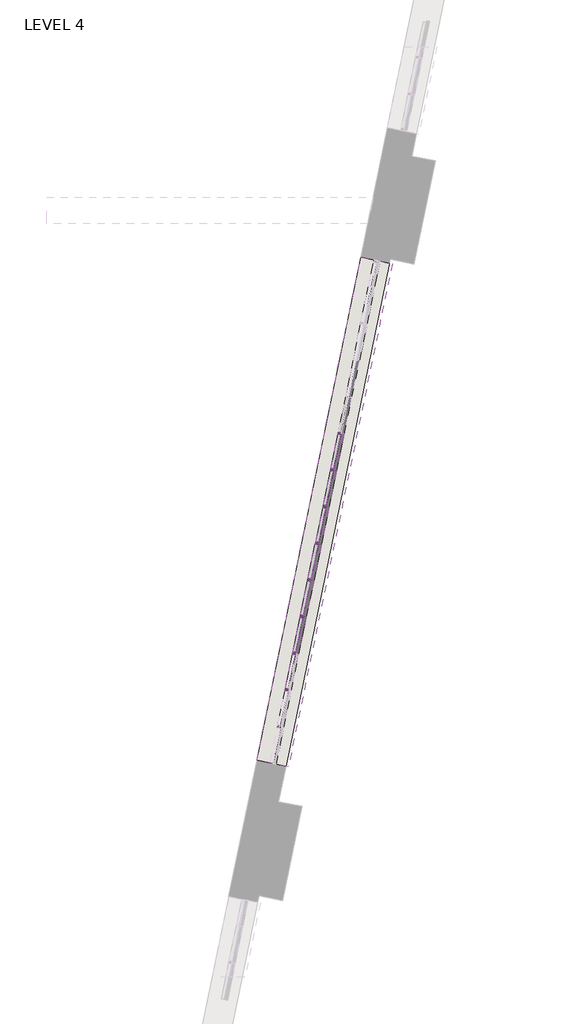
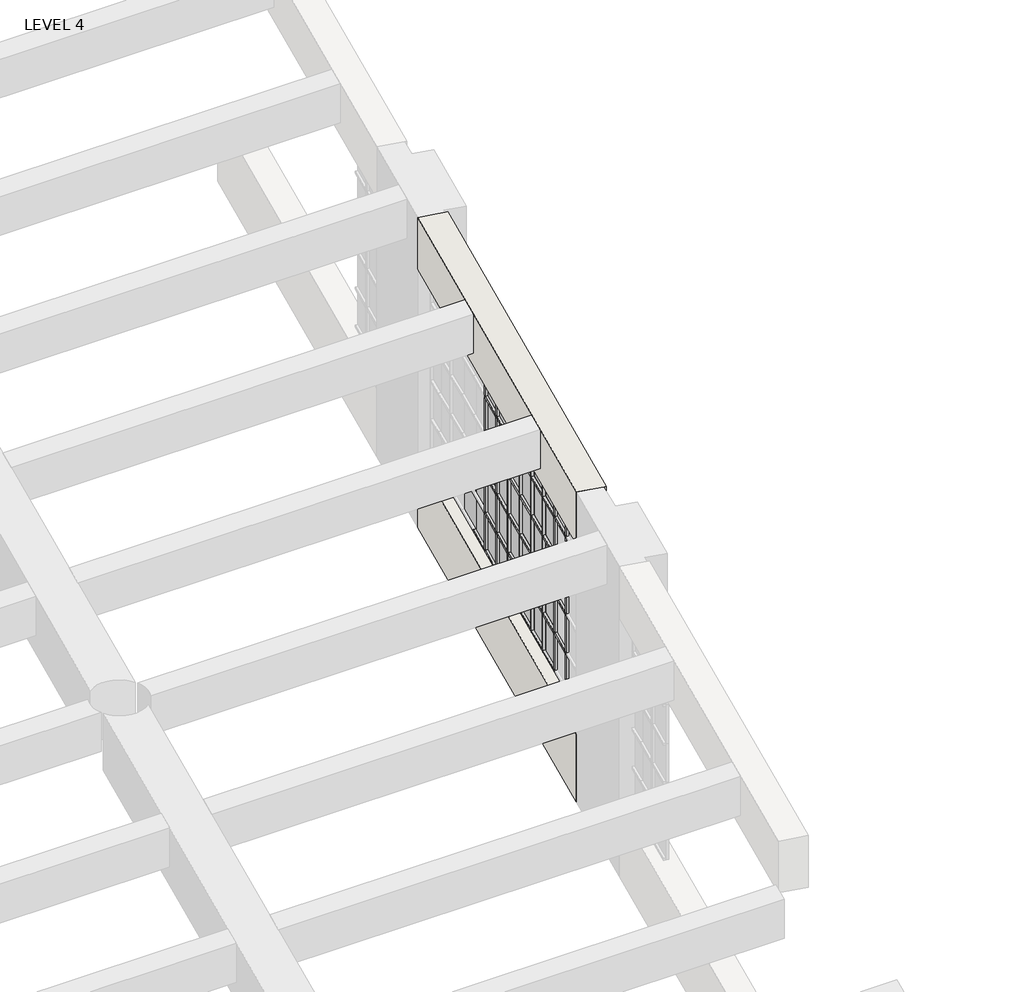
# One storey, part 20 of 26: 84 members, 34 plates, 2 walls.
"""IFC4 building model written with IfcOpenShell, lengths in millimetres."""

from ifc_helpers import new_model, si_unit, frame, origin, origin_with_axes, place, context, project, spatial, polyline, outline, extrude, transform, mapped, element, save
from components import member_d9fec558, member_3d4b608b, member_3c10d71f, member_653bb31e, member_0f6da5c5, member_68d7b224, system_panel_glazed_ab35d819, system_panel_glazed_418eb6cd

model = new_model("IFC4")

# Units and contexts
model_context = context("Model", 3, world=origin())
ifc_project = project(units=[si_unit("LENGTHUNIT", "METRE", prefix="MILLI")], contexts=[model_context])

# Site, building, storey
site = spatial("IfcSite", under=ifc_project)
building = spatial("IfcBuilding", under=site)
storey = spatial("IfcBuildingStorey", under=building, Name="LEVEL 4", Elevation=0.0)

# Members
placement = place(None, origin())
member_shape = member_d9fec558(model_context)
element("IfcMember", 1, ObjectType="Circular Mullion : 1 1/4\" Square", at=placement, inside=storey, context=model_context, shape_type="MappedRepresentation", body=[
    mapped(member_shape, transform((20965.7403729, 103192.5272688, 2628.9), x_axis=(0.20222128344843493, 0.979339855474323, 0.0), y_axis=(0.979339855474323, -0.20222128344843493, 0.0), z_axis=(0.0, 0.0, -1.0))),
])
element("IfcMember", 2, ObjectType="Circular Mullion : 1 1/4\" Square", at=placement, inside=storey, context=model_context, shape_type="MappedRepresentation", body=[
    mapped(member_shape, transform((20893.8304845, 102844.2740162, 2628.9), x_axis=(0.20222128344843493, 0.979339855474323, 0.0), y_axis=(0.979339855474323, -0.20222128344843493, 0.0), z_axis=(0.0, 0.0, -1.0))),
])
element("IfcMember", 3, ObjectType="Circular Mullion : 1 1/4\" Square", at=placement, inside=storey, context=model_context, shape_type="MappedRepresentation", body=[
    mapped(member_shape, transform((20821.9205961, 102496.0207636, 2628.9), x_axis=(0.20222128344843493, 0.979339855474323, 0.0), y_axis=(0.979339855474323, -0.20222128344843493, 0.0), z_axis=(0.0, 0.0, -1.0))),
])
element("IfcMember", 4, ObjectType="Circular Mullion : 1 1/4\" Square", at=placement, inside=storey, context=model_context, shape_type="MappedRepresentation", body=[
    mapped(member_shape, transform((20750.0107078, 102147.767511, 2628.9), x_axis=(0.20222128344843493, 0.979339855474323, 0.0), y_axis=(0.979339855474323, -0.20222128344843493, 0.0), z_axis=(0.0, 0.0, -1.0))),
])
element("IfcMember", 5, ObjectType="Circular Mullion : 1 1/4\" Square", at=placement, inside=storey, context=model_context, shape_type="MappedRepresentation", body=[
    mapped(member_shape, transform((20678.1008194, 101799.5142583, 2628.9), x_axis=(0.20222128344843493, 0.979339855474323, 0.0), y_axis=(0.979339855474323, -0.20222128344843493, 0.0), z_axis=(0.0, 0.0, -1.0))),
])
element("IfcMember", 6, ObjectType="Circular Mullion : 1 1/4\" Square", at=placement, inside=storey, context=model_context, shape_type="MappedRepresentation", body=[
    mapped(member_shape, transform((20606.190931, 101451.2610057, 2628.9), x_axis=(0.20222128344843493, 0.979339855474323, 0.0), y_axis=(0.979339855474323, -0.20222128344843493, 0.0), z_axis=(0.0, 0.0, -1.0))),
])
element("IfcMember", 7, ObjectType="Circular Mullion : 1 1/4\" Square", at=placement, inside=storey, context=model_context, shape_type="MappedRepresentation", body=[
    mapped(member_shape, transform((20534.2810426, 101103.0077531, 2628.9), x_axis=(0.20222128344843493, 0.979339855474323, 0.0), y_axis=(0.979339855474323, -0.20222128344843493, 0.0), z_axis=(0.0, 0.0, -1.0))),
])
element("IfcMember", 8, ObjectType="Circular Mullion : 1 1/4\" Square", at=placement, inside=storey, context=model_context, shape_type="MappedRepresentation", body=[
    mapped(member_shape, transform((20462.3711542, 100754.7545005, 2628.9), x_axis=(0.20222128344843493, 0.979339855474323, 0.0), y_axis=(0.979339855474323, -0.20222128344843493, 0.0), z_axis=(0.0, 0.0, -1.0))),
])
element("IfcMember", 9, ObjectType="Circular Mullion : 1 1/4\" Square", at=placement, inside=storey, context=model_context, shape_type="MappedRepresentation", body=[
    mapped(member_shape, transform((20390.4612658, 100406.5012479, 2628.9), x_axis=(0.20222128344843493, 0.979339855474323, 0.0), y_axis=(0.979339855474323, -0.20222128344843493, 0.0), z_axis=(0.0, 0.0, -1.0))),
])
member_2_shape = member_3d4b608b(model_context)
element("IfcMember", 10, ObjectType="Circular Mullion : 1 1/4\" Square", at=placement, inside=storey, context=model_context, shape_type="MappedRepresentation", body=[
    mapped(member_2_shape, transform((20965.7403729, 103192.5272688, 2171.7), x_axis=(0.20222128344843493, 0.979339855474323, 0.0), y_axis=(0.979339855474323, -0.20222128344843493, 0.0), z_axis=(0.0, 0.0, -1.0))),
])
element("IfcMember", 11, ObjectType="Circular Mullion : 1 1/4\" Square", at=placement, inside=storey, context=model_context, shape_type="MappedRepresentation", body=[
    mapped(member_2_shape, transform((20965.7403729, 103192.5272688, 1714.5), x_axis=(0.20222128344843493, 0.979339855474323, 0.0), y_axis=(0.979339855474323, -0.20222128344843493, 0.0), z_axis=(0.0, 0.0, -1.0))),
])
element("IfcMember", 12, ObjectType="Circular Mullion : 1 1/4\" Square", at=placement, inside=storey, context=model_context, shape_type="MappedRepresentation", body=[
    mapped(member_2_shape, transform((20965.7403729, 103192.5272688, 1257.3), x_axis=(0.20222128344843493, 0.979339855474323, 0.0), y_axis=(0.979339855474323, -0.20222128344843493, 0.0), z_axis=(0.0, 0.0, -1.0))),
])
element("IfcMember", 13, ObjectType="Circular Mullion : 1 1/4\" Square", at=placement, inside=storey, context=model_context, shape_type="MappedRepresentation", body=[
    mapped(member_2_shape, transform((20893.8304845, 102844.2740162, 2171.7), x_axis=(0.20222128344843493, 0.979339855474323, 0.0), y_axis=(0.979339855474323, -0.20222128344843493, 0.0), z_axis=(0.0, 0.0, -1.0))),
])
element("IfcMember", 14, ObjectType="Circular Mullion : 1 1/4\" Square", at=placement, inside=storey, context=model_context, shape_type="MappedRepresentation", body=[
    mapped(member_2_shape, transform((20893.8304845, 102844.2740162, 1714.5), x_axis=(0.20222128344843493, 0.979339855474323, 0.0), y_axis=(0.979339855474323, -0.20222128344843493, 0.0), z_axis=(0.0, 0.0, -1.0))),
])
element("IfcMember", 15, ObjectType="Circular Mullion : 1 1/4\" Square", at=placement, inside=storey, context=model_context, shape_type="MappedRepresentation", body=[
    mapped(member_2_shape, transform((20893.8304845, 102844.2740162, 1257.3), x_axis=(0.20222128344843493, 0.979339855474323, 0.0), y_axis=(0.979339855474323, -0.20222128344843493, 0.0), z_axis=(0.0, 0.0, -1.0))),
])
element("IfcMember", 16, ObjectType="Circular Mullion : 1 1/4\" Square", at=placement, inside=storey, context=model_context, shape_type="MappedRepresentation", body=[
    mapped(member_2_shape, transform((20821.9205961, 102496.0207636, 2171.7), x_axis=(0.20222128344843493, 0.979339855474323, 0.0), y_axis=(0.979339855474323, -0.20222128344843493, 0.0), z_axis=(0.0, 0.0, -1.0))),
])
element("IfcMember", 17, ObjectType="Circular Mullion : 1 1/4\" Square", at=placement, inside=storey, context=model_context, shape_type="MappedRepresentation", body=[
    mapped(member_2_shape, transform((20821.9205961, 102496.0207636, 1714.5), x_axis=(0.20222128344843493, 0.979339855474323, 0.0), y_axis=(0.979339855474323, -0.20222128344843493, 0.0), z_axis=(0.0, 0.0, -1.0))),
])
element("IfcMember", 18, ObjectType="Circular Mullion : 1 1/4\" Square", at=placement, inside=storey, context=model_context, shape_type="MappedRepresentation", body=[
    mapped(member_2_shape, transform((20821.9205961, 102496.0207636, 1257.3), x_axis=(0.20222128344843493, 0.979339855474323, 0.0), y_axis=(0.979339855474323, -0.20222128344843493, 0.0), z_axis=(0.0, 0.0, -1.0))),
])
element("IfcMember", 19, ObjectType="Circular Mullion : 1 1/4\" Square", at=placement, inside=storey, context=model_context, shape_type="MappedRepresentation", body=[
    mapped(member_2_shape, transform((20750.0107078, 102147.767511, 2171.7), x_axis=(0.20222128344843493, 0.979339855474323, 0.0), y_axis=(0.979339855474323, -0.20222128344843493, 0.0), z_axis=(0.0, 0.0, -1.0))),
])
element("IfcMember", 20, ObjectType="Circular Mullion : 1 1/4\" Square", at=placement, inside=storey, context=model_context, shape_type="MappedRepresentation", body=[
    mapped(member_2_shape, transform((20750.0107078, 102147.767511, 1714.5), x_axis=(0.20222128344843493, 0.979339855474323, 0.0), y_axis=(0.979339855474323, -0.20222128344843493, 0.0), z_axis=(0.0, 0.0, -1.0))),
])
element("IfcMember", 21, ObjectType="Circular Mullion : 1 1/4\" Square", at=placement, inside=storey, context=model_context, shape_type="MappedRepresentation", body=[
    mapped(member_2_shape, transform((20750.0107078, 102147.767511, 1257.3), x_axis=(0.20222128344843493, 0.979339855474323, 0.0), y_axis=(0.979339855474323, -0.20222128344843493, 0.0), z_axis=(0.0, 0.0, -1.0))),
])
element("IfcMember", 22, ObjectType="Circular Mullion : 1 1/4\" Square", at=placement, inside=storey, context=model_context, shape_type="MappedRepresentation", body=[
    mapped(member_2_shape, transform((20678.1008194, 101799.5142583, 2171.7), x_axis=(0.20222128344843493, 0.979339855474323, 0.0), y_axis=(0.979339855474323, -0.20222128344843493, 0.0), z_axis=(0.0, 0.0, -1.0))),
])
element("IfcMember", 23, ObjectType="Circular Mullion : 1 1/4\" Square", at=placement, inside=storey, context=model_context, shape_type="MappedRepresentation", body=[
    mapped(member_2_shape, transform((20678.1008194, 101799.5142583, 1714.5), x_axis=(0.20222128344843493, 0.979339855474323, 0.0), y_axis=(0.979339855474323, -0.20222128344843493, 0.0), z_axis=(0.0, 0.0, -1.0))),
])
element("IfcMember", 24, ObjectType="Circular Mullion : 1 1/4\" Square", at=placement, inside=storey, context=model_context, shape_type="MappedRepresentation", body=[
    mapped(member_2_shape, transform((20678.1008194, 101799.5142583, 1257.3), x_axis=(0.20222128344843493, 0.979339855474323, 0.0), y_axis=(0.979339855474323, -0.20222128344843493, 0.0), z_axis=(0.0, 0.0, -1.0))),
])
element("IfcMember", 25, ObjectType="Circular Mullion : 1 1/4\" Square", at=placement, inside=storey, context=model_context, shape_type="MappedRepresentation", body=[
    mapped(member_2_shape, transform((20606.190931, 101451.2610057, 2171.7), x_axis=(0.20222128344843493, 0.979339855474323, 0.0), y_axis=(0.979339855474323, -0.20222128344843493, 0.0), z_axis=(0.0, 0.0, -1.0))),
])
element("IfcMember", 26, ObjectType="Circular Mullion : 1 1/4\" Square", at=placement, inside=storey, context=model_context, shape_type="MappedRepresentation", body=[
    mapped(member_2_shape, transform((20606.190931, 101451.2610057, 1714.5), x_axis=(0.20222128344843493, 0.979339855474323, 0.0), y_axis=(0.979339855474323, -0.20222128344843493, 0.0), z_axis=(0.0, 0.0, -1.0))),
])
element("IfcMember", 27, ObjectType="Circular Mullion : 1 1/4\" Square", at=placement, inside=storey, context=model_context, shape_type="MappedRepresentation", body=[
    mapped(member_2_shape, transform((20606.190931, 101451.2610057, 1257.3), x_axis=(0.20222128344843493, 0.979339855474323, 0.0), y_axis=(0.979339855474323, -0.20222128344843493, 0.0), z_axis=(0.0, 0.0, -1.0))),
])
element("IfcMember", 28, ObjectType="Circular Mullion : 1 1/4\" Square", at=placement, inside=storey, context=model_context, shape_type="MappedRepresentation", body=[
    mapped(member_2_shape, transform((20534.2810426, 101103.0077531, 2171.7), x_axis=(0.20222128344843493, 0.979339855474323, 0.0), y_axis=(0.979339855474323, -0.20222128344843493, 0.0), z_axis=(0.0, 0.0, -1.0))),
])
element("IfcMember", 29, ObjectType="Circular Mullion : 1 1/4\" Square", at=placement, inside=storey, context=model_context, shape_type="MappedRepresentation", body=[
    mapped(member_2_shape, transform((20534.2810426, 101103.0077531, 1714.5), x_axis=(0.20222128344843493, 0.979339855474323, 0.0), y_axis=(0.979339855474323, -0.20222128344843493, 0.0), z_axis=(0.0, 0.0, -1.0))),
])
element("IfcMember", 30, ObjectType="Circular Mullion : 1 1/4\" Square", at=placement, inside=storey, context=model_context, shape_type="MappedRepresentation", body=[
    mapped(member_2_shape, transform((20534.2810426, 101103.0077531, 1257.3), x_axis=(0.20222128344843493, 0.979339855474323, 0.0), y_axis=(0.979339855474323, -0.20222128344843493, 0.0), z_axis=(0.0, 0.0, -1.0))),
])
element("IfcMember", 31, ObjectType="Circular Mullion : 1 1/4\" Square", at=placement, inside=storey, context=model_context, shape_type="MappedRepresentation", body=[
    mapped(member_2_shape, transform((20462.3711542, 100754.7545005, 2171.7), x_axis=(0.20222128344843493, 0.979339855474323, 0.0), y_axis=(0.979339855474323, -0.20222128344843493, 0.0), z_axis=(0.0, 0.0, -1.0))),
])
element("IfcMember", 32, ObjectType="Circular Mullion : 1 1/4\" Square", at=placement, inside=storey, context=model_context, shape_type="MappedRepresentation", body=[
    mapped(member_2_shape, transform((20462.3711542, 100754.7545005, 1714.5), x_axis=(0.20222128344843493, 0.979339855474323, 0.0), y_axis=(0.979339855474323, -0.20222128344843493, 0.0), z_axis=(0.0, 0.0, -1.0))),
])
element("IfcMember", 33, ObjectType="Circular Mullion : 1 1/4\" Square", at=placement, inside=storey, context=model_context, shape_type="MappedRepresentation", body=[
    mapped(member_2_shape, transform((20462.3711542, 100754.7545005, 1257.3), x_axis=(0.20222128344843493, 0.979339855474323, 0.0), y_axis=(0.979339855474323, -0.20222128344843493, 0.0), z_axis=(0.0, 0.0, -1.0))),
])
element("IfcMember", 34, ObjectType="Circular Mullion : 1 1/4\" Square", at=placement, inside=storey, context=model_context, shape_type="MappedRepresentation", body=[
    mapped(member_2_shape, transform((20965.7403729, 103192.5272688, 800.1), x_axis=(0.20222128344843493, 0.979339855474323, 0.0), y_axis=(0.979339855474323, -0.20222128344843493, 0.0), z_axis=(0.0, 0.0, -1.0))),
])
element("IfcMember", 35, ObjectType="Circular Mullion : 1 1/4\" Square", at=placement, inside=storey, context=model_context, shape_type="MappedRepresentation", body=[
    mapped(member_2_shape, transform((20893.8304845, 102844.2740162, 800.1), x_axis=(0.20222128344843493, 0.979339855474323, 0.0), y_axis=(0.979339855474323, -0.20222128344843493, 0.0), z_axis=(0.0, 0.0, -1.0))),
])
element("IfcMember", 36, ObjectType="Circular Mullion : 1 1/4\" Square", at=placement, inside=storey, context=model_context, shape_type="MappedRepresentation", body=[
    mapped(member_2_shape, transform((20821.9205961, 102496.0207636, 800.1), x_axis=(0.20222128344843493, 0.979339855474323, 0.0), y_axis=(0.979339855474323, -0.20222128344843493, 0.0), z_axis=(0.0, 0.0, -1.0))),
])
element("IfcMember", 37, ObjectType="Circular Mullion : 1 1/4\" Square", at=placement, inside=storey, context=model_context, shape_type="MappedRepresentation", body=[
    mapped(member_2_shape, transform((20750.0107078, 102147.767511, 800.1), x_axis=(0.20222128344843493, 0.979339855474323, 0.0), y_axis=(0.979339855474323, -0.20222128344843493, 0.0), z_axis=(0.0, 0.0, -1.0))),
])
element("IfcMember", 38, ObjectType="Circular Mullion : 1 1/4\" Square", at=placement, inside=storey, context=model_context, shape_type="MappedRepresentation", body=[
    mapped(member_2_shape, transform((20678.1008194, 101799.5142583, 800.1), x_axis=(0.20222128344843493, 0.979339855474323, 0.0), y_axis=(0.979339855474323, -0.20222128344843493, 0.0), z_axis=(0.0, 0.0, -1.0))),
])
element("IfcMember", 39, ObjectType="Circular Mullion : 1 1/4\" Square", at=placement, inside=storey, context=model_context, shape_type="MappedRepresentation", body=[
    mapped(member_2_shape, transform((20606.190931, 101451.2610057, 800.1), x_axis=(0.20222128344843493, 0.979339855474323, 0.0), y_axis=(0.979339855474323, -0.20222128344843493, 0.0), z_axis=(0.0, 0.0, -1.0))),
])
element("IfcMember", 40, ObjectType="Circular Mullion : 1 1/4\" Square", at=placement, inside=storey, context=model_context, shape_type="MappedRepresentation", body=[
    mapped(member_2_shape, transform((20534.2810426, 101103.0077531, 800.1), x_axis=(0.20222128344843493, 0.979339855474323, 0.0), y_axis=(0.979339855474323, -0.20222128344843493, 0.0), z_axis=(0.0, 0.0, -1.0))),
])
element("IfcMember", 41, ObjectType="Circular Mullion : 1 1/4\" Square", at=placement, inside=storey, context=model_context, shape_type="MappedRepresentation", body=[
    mapped(member_2_shape, transform((20462.3711542, 100754.7545005, 800.1), x_axis=(0.20222128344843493, 0.979339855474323, 0.0), y_axis=(0.979339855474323, -0.20222128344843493, 0.0), z_axis=(0.0, 0.0, -1.0))),
])
member_3_shape = member_3c10d71f(model_context)
element("IfcMember", 42, ObjectType="Circular Mullion : 1 1/4\" Square", at=placement, inside=storey, context=model_context, shape_type="MappedRepresentation", body=[
    mapped(member_3_shape, transform((20531.7128323, 101090.570137, 3060.7), x_axis=(0.0, 0.0, 1.0), y_axis=(0.9793398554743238, -0.20222128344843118, 0.0), z_axis=(0.20222128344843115, 0.9793398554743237, 0.0))),
])
element("IfcMember", 43, ObjectType="Circular Mullion : 1 1/4\" Square", at=placement, inside=storey, context=model_context, shape_type="MappedRepresentation", body=[
    mapped(member_3_shape, transform((20603.6227207, 101438.8233896, 3060.7), x_axis=(0.0, 0.0, 1.0), y_axis=(0.9793398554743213, -0.20222128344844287, 0.0), z_axis=(0.20222128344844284, 0.9793398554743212, 0.0))),
])
element("IfcMember", 44, ObjectType="Circular Mullion : 1 1/4\" Square", at=placement, inside=storey, context=model_context, shape_type="MappedRepresentation", body=[
    mapped(member_3_shape, transform((20675.5326091, 101787.0766422, 3060.7), x_axis=(0.0, 0.0, 1.0), y_axis=(0.9793398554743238, -0.20222128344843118, 0.0), z_axis=(0.20222128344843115, 0.9793398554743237, 0.0))),
])
element("IfcMember", 45, ObjectType="Circular Mullion : 1 1/4\" Square", at=placement, inside=storey, context=model_context, shape_type="MappedRepresentation", body=[
    mapped(member_3_shape, transform((20747.4424975, 102135.3298948, 3060.7), x_axis=(0.0, 0.0, 1.0), y_axis=(0.9793398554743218, -0.20222128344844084, 0.0), z_axis=(0.20222128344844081, 0.9793398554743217, 0.0))),
])
element("IfcMember", 46, ObjectType="Circular Mullion : 1 1/4\" Square", at=placement, inside=storey, context=model_context, shape_type="MappedRepresentation", body=[
    mapped(member_3_shape, transform((20819.3523858, 102483.5831474, 3060.7), x_axis=(0.0, 0.0, 1.0), y_axis=(0.9793398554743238, -0.20222128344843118, 0.0), z_axis=(0.20222128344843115, 0.9793398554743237, 0.0))),
])
element("IfcMember", 47, ObjectType="Circular Mullion : 1 1/4\" Square", at=placement, inside=storey, context=model_context, shape_type="MappedRepresentation", body=[
    mapped(member_3_shape, transform((20891.2622742, 102831.8364, 3060.7), x_axis=(0.0, 0.0, 1.0), y_axis=(0.9793398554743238, -0.20222128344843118, 0.0), z_axis=(0.20222128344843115, 0.9793398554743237, 0.0))),
])
element("IfcMember", 48, ObjectType="Circular Mullion : 1 1/4\" Square", at=placement, inside=storey, context=model_context, shape_type="MappedRepresentation", body=[
    mapped(member_3_shape, transform((20963.1721626, 103180.0896526, 3060.7), x_axis=(0.0, 0.0, 1.0), y_axis=(0.9793398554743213, -0.20222128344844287, 0.0), z_axis=(0.20222128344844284, 0.9793398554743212, 0.0))),
])
element("IfcMember", 49, ObjectType="Circular Mullion : 1 1/4\" Square", at=placement, inside=storey, context=model_context, shape_type="MappedRepresentation", body=[
    mapped(member_3_shape, transform((20536.8492529, 101115.4453693, 800.1), x_axis=(0.0, 0.0, -1.0), y_axis=(0.9793398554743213, -0.20222128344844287, 0.0), z_axis=(-0.20222128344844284, -0.9793398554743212, 0.0))),
])
element("IfcMember", 50, ObjectType="Circular Mullion : 1 1/4\" Square", at=placement, inside=storey, context=model_context, shape_type="MappedRepresentation", body=[
    mapped(member_3_shape, transform((20608.7591413, 101463.6986219, 800.1), x_axis=(0.0, 0.0, -1.0), y_axis=(0.9793398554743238, -0.20222128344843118, 0.0), z_axis=(-0.20222128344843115, -0.9793398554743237, 0.0))),
])
element("IfcMember", 51, ObjectType="Circular Mullion : 1 1/4\" Square", at=placement, inside=storey, context=model_context, shape_type="MappedRepresentation", body=[
    mapped(member_3_shape, transform((20680.6690297, 101811.9518745, 800.1), x_axis=(0.0, 0.0, -1.0), y_axis=(0.9793398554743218, -0.20222128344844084, 0.0), z_axis=(-0.20222128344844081, -0.9793398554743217, 0.0))),
])
element("IfcMember", 52, ObjectType="Circular Mullion : 1 1/4\" Square", at=placement, inside=storey, context=model_context, shape_type="MappedRepresentation", body=[
    mapped(member_3_shape, transform((20752.5789181, 102160.2051271, 800.1), x_axis=(0.0, 0.0, -1.0), y_axis=(0.9793398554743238, -0.20222128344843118, 0.0), z_axis=(-0.20222128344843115, -0.9793398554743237, 0.0))),
])
element("IfcMember", 53, ObjectType="Circular Mullion : 1 1/4\" Square", at=placement, inside=storey, context=model_context, shape_type="MappedRepresentation", body=[
    mapped(member_3_shape, transform((20824.4888064, 102508.4583797, 800.1), x_axis=(0.0, 0.0, -1.0), y_axis=(0.9793398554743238, -0.20222128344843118, 0.0), z_axis=(-0.20222128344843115, -0.9793398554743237, 0.0))),
])
element("IfcMember", 54, ObjectType="Circular Mullion : 1 1/4\" Square", at=placement, inside=storey, context=model_context, shape_type="MappedRepresentation", body=[
    mapped(member_3_shape, transform((20896.3986948, 102856.7116323, 800.1), x_axis=(0.0, 0.0, -1.0), y_axis=(0.9793398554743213, -0.20222128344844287, 0.0), z_axis=(-0.20222128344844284, -0.9793398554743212, 0.0))),
])
member_4_shape = member_653bb31e(model_context)
element("IfcMember", 55, ObjectType="Circular Mullion : 1 1/4\" Square", at=placement, inside=storey, context=model_context, shape_type="MappedRepresentation", body=[
    mapped(member_4_shape, transform((20531.7128323, 101090.570137, 2628.9), x_axis=(0.0, 0.0, 1.0), y_axis=(0.9793398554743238, -0.20222128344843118, 0.0), z_axis=(0.20222128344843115, 0.9793398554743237, 0.0))),
])
element("IfcMember", 56, ObjectType="Circular Mullion : 1 1/4\" Square", at=placement, inside=storey, context=model_context, shape_type="MappedRepresentation", body=[
    mapped(member_4_shape, transform((20603.6227207, 101438.8233896, 2628.9), x_axis=(0.0, 0.0, 1.0), y_axis=(0.9793398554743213, -0.20222128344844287, 0.0), z_axis=(0.20222128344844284, 0.9793398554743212, 0.0))),
])
element("IfcMember", 57, ObjectType="Circular Mullion : 1 1/4\" Square", at=placement, inside=storey, context=model_context, shape_type="MappedRepresentation", body=[
    mapped(member_4_shape, transform((20675.5326091, 101787.0766422, 2628.9), x_axis=(0.0, 0.0, 1.0), y_axis=(0.9793398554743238, -0.20222128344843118, 0.0), z_axis=(0.20222128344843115, 0.9793398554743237, 0.0))),
])
element("IfcMember", 58, ObjectType="Circular Mullion : 1 1/4\" Square", at=placement, inside=storey, context=model_context, shape_type="MappedRepresentation", body=[
    mapped(member_4_shape, transform((20747.4424975, 102135.3298948, 2628.9), x_axis=(0.0, 0.0, 1.0), y_axis=(0.9793398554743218, -0.20222128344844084, 0.0), z_axis=(0.20222128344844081, 0.9793398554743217, 0.0))),
])
element("IfcMember", 59, ObjectType="Circular Mullion : 1 1/4\" Square", at=placement, inside=storey, context=model_context, shape_type="MappedRepresentation", body=[
    mapped(member_4_shape, transform((20819.3523858, 102483.5831474, 2628.9), x_axis=(0.0, 0.0, 1.0), y_axis=(0.9793398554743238, -0.20222128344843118, 0.0), z_axis=(0.20222128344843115, 0.9793398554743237, 0.0))),
])
element("IfcMember", 60, ObjectType="Circular Mullion : 1 1/4\" Square", at=placement, inside=storey, context=model_context, shape_type="MappedRepresentation", body=[
    mapped(member_4_shape, transform((20891.2622742, 102831.8364, 2628.9), x_axis=(0.0, 0.0, 1.0), y_axis=(0.9793398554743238, -0.20222128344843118, 0.0), z_axis=(0.20222128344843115, 0.9793398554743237, 0.0))),
])
element("IfcMember", 61, ObjectType="Circular Mullion : 1 1/4\" Square", at=placement, inside=storey, context=model_context, shape_type="MappedRepresentation", body=[
    mapped(member_4_shape, transform((20963.1721626, 103180.0896526, 2628.9), x_axis=(0.0, 0.0, 1.0), y_axis=(0.9793398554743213, -0.20222128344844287, 0.0), z_axis=(0.20222128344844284, 0.9793398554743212, 0.0))),
])
element("IfcMember", 62, ObjectType="Circular Mullion : 1 1/4\" Square", at=placement, inside=storey, context=model_context, shape_type="MappedRepresentation", body=[
    mapped(member_4_shape, transform((20531.7128323, 101090.570137, 2171.7), x_axis=(0.0, 0.0, 1.0), y_axis=(0.9793398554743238, -0.20222128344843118, 0.0), z_axis=(0.20222128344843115, 0.9793398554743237, 0.0))),
])
element("IfcMember", 63, ObjectType="Circular Mullion : 1 1/4\" Square", at=placement, inside=storey, context=model_context, shape_type="MappedRepresentation", body=[
    mapped(member_4_shape, transform((20603.6227207, 101438.8233896, 2171.7), x_axis=(0.0, 0.0, 1.0), y_axis=(0.9793398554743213, -0.20222128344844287, 0.0), z_axis=(0.20222128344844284, 0.9793398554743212, 0.0))),
])
element("IfcMember", 64, ObjectType="Circular Mullion : 1 1/4\" Square", at=placement, inside=storey, context=model_context, shape_type="MappedRepresentation", body=[
    mapped(member_4_shape, transform((20675.5326091, 101787.0766422, 2171.7), x_axis=(0.0, 0.0, 1.0), y_axis=(0.9793398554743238, -0.20222128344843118, 0.0), z_axis=(0.20222128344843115, 0.9793398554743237, 0.0))),
])
element("IfcMember", 65, ObjectType="Circular Mullion : 1 1/4\" Square", at=placement, inside=storey, context=model_context, shape_type="MappedRepresentation", body=[
    mapped(member_4_shape, transform((20747.4424975, 102135.3298948, 2171.7), x_axis=(0.0, 0.0, 1.0), y_axis=(0.9793398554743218, -0.20222128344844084, 0.0), z_axis=(0.20222128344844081, 0.9793398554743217, 0.0))),
])
element("IfcMember", 66, ObjectType="Circular Mullion : 1 1/4\" Square", at=placement, inside=storey, context=model_context, shape_type="MappedRepresentation", body=[
    mapped(member_4_shape, transform((20819.3523858, 102483.5831474, 2171.7), x_axis=(0.0, 0.0, 1.0), y_axis=(0.9793398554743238, -0.20222128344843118, 0.0), z_axis=(0.20222128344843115, 0.9793398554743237, 0.0))),
])
element("IfcMember", 67, ObjectType="Circular Mullion : 1 1/4\" Square", at=placement, inside=storey, context=model_context, shape_type="MappedRepresentation", body=[
    mapped(member_4_shape, transform((20891.2622742, 102831.8364, 2171.7), x_axis=(0.0, 0.0, 1.0), y_axis=(0.9793398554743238, -0.20222128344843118, 0.0), z_axis=(0.20222128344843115, 0.9793398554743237, 0.0))),
])
element("IfcMember", 68, ObjectType="Circular Mullion : 1 1/4\" Square", at=placement, inside=storey, context=model_context, shape_type="MappedRepresentation", body=[
    mapped(member_4_shape, transform((20963.1721626, 103180.0896526, 2171.7), x_axis=(0.0, 0.0, 1.0), y_axis=(0.9793398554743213, -0.20222128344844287, 0.0), z_axis=(0.20222128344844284, 0.9793398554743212, 0.0))),
])
element("IfcMember", 69, ObjectType="Circular Mullion : 1 1/4\" Square", at=placement, inside=storey, context=model_context, shape_type="MappedRepresentation", body=[
    mapped(member_4_shape, transform((20531.7128323, 101090.570137, 1714.5), x_axis=(0.0, 0.0, 1.0), y_axis=(0.9793398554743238, -0.20222128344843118, 0.0), z_axis=(0.20222128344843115, 0.9793398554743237, 0.0))),
])
element("IfcMember", 70, ObjectType="Circular Mullion : 1 1/4\" Square", at=placement, inside=storey, context=model_context, shape_type="MappedRepresentation", body=[
    mapped(member_4_shape, transform((20603.6227207, 101438.8233896, 1714.5), x_axis=(0.0, 0.0, 1.0), y_axis=(0.9793398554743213, -0.20222128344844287, 0.0), z_axis=(0.20222128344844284, 0.9793398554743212, 0.0))),
])
element("IfcMember", 71, ObjectType="Circular Mullion : 1 1/4\" Square", at=placement, inside=storey, context=model_context, shape_type="MappedRepresentation", body=[
    mapped(member_4_shape, transform((20675.5326091, 101787.0766422, 1714.5), x_axis=(0.0, 0.0, 1.0), y_axis=(0.9793398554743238, -0.20222128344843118, 0.0), z_axis=(0.20222128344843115, 0.9793398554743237, 0.0))),
])
element("IfcMember", 72, ObjectType="Circular Mullion : 1 1/4\" Square", at=placement, inside=storey, context=model_context, shape_type="MappedRepresentation", body=[
    mapped(member_4_shape, transform((20747.4424975, 102135.3298948, 1714.5), x_axis=(0.0, 0.0, 1.0), y_axis=(0.9793398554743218, -0.20222128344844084, 0.0), z_axis=(0.20222128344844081, 0.9793398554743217, 0.0))),
])
element("IfcMember", 73, ObjectType="Circular Mullion : 1 1/4\" Square", at=placement, inside=storey, context=model_context, shape_type="MappedRepresentation", body=[
    mapped(member_4_shape, transform((20819.3523858, 102483.5831474, 1714.5), x_axis=(0.0, 0.0, 1.0), y_axis=(0.9793398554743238, -0.20222128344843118, 0.0), z_axis=(0.20222128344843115, 0.9793398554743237, 0.0))),
])
element("IfcMember", 74, ObjectType="Circular Mullion : 1 1/4\" Square", at=placement, inside=storey, context=model_context, shape_type="MappedRepresentation", body=[
    mapped(member_4_shape, transform((20891.2622742, 102831.8364, 1714.5), x_axis=(0.0, 0.0, 1.0), y_axis=(0.9793398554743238, -0.20222128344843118, 0.0), z_axis=(0.20222128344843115, 0.9793398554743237, 0.0))),
])
element("IfcMember", 75, ObjectType="Circular Mullion : 1 1/4\" Square", at=placement, inside=storey, context=model_context, shape_type="MappedRepresentation", body=[
    mapped(member_4_shape, transform((20963.1721626, 103180.0896526, 1714.5), x_axis=(0.0, 0.0, 1.0), y_axis=(0.9793398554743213, -0.20222128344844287, 0.0), z_axis=(0.20222128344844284, 0.9793398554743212, 0.0))),
])
element("IfcMember", 76, ObjectType="Circular Mullion : 1 1/4\" Square", at=placement, inside=storey, context=model_context, shape_type="MappedRepresentation", body=[
    mapped(member_4_shape, transform((20531.7128323, 101090.570137, 1257.3), x_axis=(0.0, 0.0, 1.0), y_axis=(0.9793398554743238, -0.20222128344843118, 0.0), z_axis=(0.20222128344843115, 0.9793398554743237, 0.0))),
])
element("IfcMember", 77, ObjectType="Circular Mullion : 1 1/4\" Square", at=placement, inside=storey, context=model_context, shape_type="MappedRepresentation", body=[
    mapped(member_4_shape, transform((20603.6227207, 101438.8233896, 1257.3), x_axis=(0.0, 0.0, 1.0), y_axis=(0.9793398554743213, -0.20222128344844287, 0.0), z_axis=(0.20222128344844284, 0.9793398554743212, 0.0))),
])
element("IfcMember", 78, ObjectType="Circular Mullion : 1 1/4\" Square", at=placement, inside=storey, context=model_context, shape_type="MappedRepresentation", body=[
    mapped(member_4_shape, transform((20675.5326091, 101787.0766422, 1257.3), x_axis=(0.0, 0.0, 1.0), y_axis=(0.9793398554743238, -0.20222128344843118, 0.0), z_axis=(0.20222128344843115, 0.9793398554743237, 0.0))),
])
element("IfcMember", 79, ObjectType="Circular Mullion : 1 1/4\" Square", at=placement, inside=storey, context=model_context, shape_type="MappedRepresentation", body=[
    mapped(member_4_shape, transform((20747.4424975, 102135.3298948, 1257.3), x_axis=(0.0, 0.0, 1.0), y_axis=(0.9793398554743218, -0.20222128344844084, 0.0), z_axis=(0.20222128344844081, 0.9793398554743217, 0.0))),
])
element("IfcMember", 80, ObjectType="Circular Mullion : 1 1/4\" Square", at=placement, inside=storey, context=model_context, shape_type="MappedRepresentation", body=[
    mapped(member_4_shape, transform((20819.3523858, 102483.5831474, 1257.3), x_axis=(0.0, 0.0, 1.0), y_axis=(0.9793398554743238, -0.20222128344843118, 0.0), z_axis=(0.20222128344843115, 0.9793398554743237, 0.0))),
])
element("IfcMember", 81, ObjectType="Circular Mullion : 1 1/4\" Square", at=placement, inside=storey, context=model_context, shape_type="MappedRepresentation", body=[
    mapped(member_4_shape, transform((20891.2622742, 102831.8364, 1257.3), x_axis=(0.0, 0.0, 1.0), y_axis=(0.9793398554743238, -0.20222128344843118, 0.0), z_axis=(0.20222128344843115, 0.9793398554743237, 0.0))),
])
element("IfcMember", 82, ObjectType="Circular Mullion : 1 1/4\" Square", at=placement, inside=storey, context=model_context, shape_type="MappedRepresentation", body=[
    mapped(member_4_shape, transform((20963.1721626, 103180.0896526, 1257.3), x_axis=(0.0, 0.0, 1.0), y_axis=(0.9793398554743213, -0.20222128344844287, 0.0), z_axis=(0.20222128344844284, 0.9793398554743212, 0.0))),
])
member_5_shape = member_0f6da5c5(model_context)
element("IfcMember", 83, ObjectType="Circular Mullion : 1 1/4\" Square", at=placement, inside=storey, context=model_context, shape_type="MappedRepresentation", body=[
    mapped(member_5_shape, transform((20968.3085832, 103204.9648849, 800.1), x_axis=(0.0, 0.0, -1.0), y_axis=(0.9793398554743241, -0.20222128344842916, 0.0), z_axis=(-0.20222128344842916, -0.9793398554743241, 0.0))),
])
member_6_shape = member_68d7b224(model_context)
element("IfcMember", 84, ObjectType="Circular Mullion : 1 1/4\" Square", at=placement, inside=storey, context=model_context, shape_type="MappedRepresentation", body=[
    mapped(member_6_shape, transform((20390.4612658, 100406.5012479, 2159.0), x_axis=(0.20222128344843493, 0.979339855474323, 0.0), y_axis=(0.979339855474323, -0.20222128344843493, 0.0), z_axis=(0.0, 0.0, -1.0))),
])

# Plates
system_panel_glazed_shape = system_panel_glazed_ab35d819(model_context)
element("IfcPlate", 85, ObjectType="System Panel : Glazed", at=placement, inside=storey, context=model_context, shape_type="MappedRepresentation", body=[
    mapped(system_panel_glazed_shape, transform((21073.6052055, 103714.9071477, 800.1), x_axis=(0.20222128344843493, 0.979339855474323, 0.0), y_axis=(-0.979339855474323, 0.20222128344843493, 0.0), z_axis=(0.0, 0.0, 1.0))),
])
element("IfcPlate", 86, ObjectType="System Panel : Glazed", at=placement, inside=storey, context=model_context, shape_type="MappedRepresentation", body=[
    mapped(system_panel_glazed_shape, transform((21001.6953171, 103366.6538951, 800.1), x_axis=(0.20222128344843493, 0.979339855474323, 0.0), y_axis=(-0.979339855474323, 0.20222128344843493, 0.0), z_axis=(0.0, 0.0, 1.0))),
])
element("IfcPlate", 87, ObjectType="System Panel : Glazed", at=placement, inside=storey, context=model_context, shape_type="MappedRepresentation", body=[
    mapped(system_panel_glazed_shape, transform((20929.7854287, 103018.4006425, 800.1), x_axis=(0.20222128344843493, 0.979339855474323, 0.0), y_axis=(-0.979339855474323, 0.20222128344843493, 0.0), z_axis=(0.0, 0.0, 1.0))),
])
element("IfcPlate", 88, ObjectType="System Panel : Glazed", at=placement, inside=storey, context=model_context, shape_type="MappedRepresentation", body=[
    mapped(system_panel_glazed_shape, transform((20857.8755403, 102670.1473899, 800.1), x_axis=(0.20222128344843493, 0.979339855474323, 0.0), y_axis=(-0.979339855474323, 0.20222128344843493, 0.0), z_axis=(0.0, 0.0, 1.0))),
])
element("IfcPlate", 89, ObjectType="System Panel : Glazed", at=placement, inside=storey, context=model_context, shape_type="MappedRepresentation", body=[
    mapped(system_panel_glazed_shape, transform((20785.9656519, 102321.8941373, 800.1), x_axis=(0.20222128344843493, 0.979339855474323, 0.0), y_axis=(-0.979339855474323, 0.20222128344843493, 0.0), z_axis=(0.0, 0.0, 1.0))),
])
element("IfcPlate", 90, ObjectType="System Panel : Glazed", at=placement, inside=storey, context=model_context, shape_type="MappedRepresentation", body=[
    mapped(system_panel_glazed_shape, transform((20714.0557636, 101973.6408846, 800.1), x_axis=(0.20222128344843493, 0.979339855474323, 0.0), y_axis=(-0.979339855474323, 0.20222128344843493, 0.0), z_axis=(0.0, 0.0, 1.0))),
])
element("IfcPlate", 91, ObjectType="System Panel : Glazed", at=placement, inside=storey, context=model_context, shape_type="MappedRepresentation", body=[
    mapped(system_panel_glazed_shape, transform((20642.1458752, 101625.387632, 800.1), x_axis=(0.20222128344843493, 0.979339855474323, 0.0), y_axis=(-0.979339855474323, 0.20222128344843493, 0.0), z_axis=(0.0, 0.0, 1.0))),
])
element("IfcPlate", 92, ObjectType="System Panel : Glazed", at=placement, inside=storey, context=model_context, shape_type="MappedRepresentation", body=[
    mapped(system_panel_glazed_shape, transform((21073.6052055, 103714.9071477, 1257.3), x_axis=(0.20222128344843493, 0.979339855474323, 0.0), y_axis=(-0.979339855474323, 0.20222128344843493, 0.0), z_axis=(0.0, 0.0, 1.0))),
])
element("IfcPlate", 93, ObjectType="System Panel : Glazed", at=placement, inside=storey, context=model_context, shape_type="MappedRepresentation", body=[
    mapped(system_panel_glazed_shape, transform((21001.6953171, 103366.6538951, 1257.3), x_axis=(0.20222128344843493, 0.979339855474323, 0.0), y_axis=(-0.979339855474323, 0.20222128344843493, 0.0), z_axis=(0.0, 0.0, 1.0))),
])
element("IfcPlate", 94, ObjectType="System Panel : Glazed", at=placement, inside=storey, context=model_context, shape_type="MappedRepresentation", body=[
    mapped(system_panel_glazed_shape, transform((20929.7854287, 103018.4006425, 1257.3), x_axis=(0.20222128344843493, 0.979339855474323, 0.0), y_axis=(-0.979339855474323, 0.20222128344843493, 0.0), z_axis=(0.0, 0.0, 1.0))),
])
element("IfcPlate", 95, ObjectType="System Panel : Glazed", at=placement, inside=storey, context=model_context, shape_type="MappedRepresentation", body=[
    mapped(system_panel_glazed_shape, transform((20857.8755403, 102670.1473899, 1257.3), x_axis=(0.20222128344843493, 0.979339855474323, 0.0), y_axis=(-0.979339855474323, 0.20222128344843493, 0.0), z_axis=(0.0, 0.0, 1.0))),
])
element("IfcPlate", 96, ObjectType="System Panel : Glazed", at=placement, inside=storey, context=model_context, shape_type="MappedRepresentation", body=[
    mapped(system_panel_glazed_shape, transform((20785.9656519, 102321.8941373, 1257.3), x_axis=(0.20222128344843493, 0.979339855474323, 0.0), y_axis=(-0.979339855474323, 0.20222128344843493, 0.0), z_axis=(0.0, 0.0, 1.0))),
])
element("IfcPlate", 97, ObjectType="System Panel : Glazed", at=placement, inside=storey, context=model_context, shape_type="MappedRepresentation", body=[
    mapped(system_panel_glazed_shape, transform((20714.0557636, 101973.6408846, 1257.3), x_axis=(0.20222128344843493, 0.979339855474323, 0.0), y_axis=(-0.979339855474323, 0.20222128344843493, 0.0), z_axis=(0.0, 0.0, 1.0))),
])
element("IfcPlate", 98, ObjectType="System Panel : Glazed", at=placement, inside=storey, context=model_context, shape_type="MappedRepresentation", body=[
    mapped(system_panel_glazed_shape, transform((20642.1458752, 101625.387632, 1257.3), x_axis=(0.20222128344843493, 0.979339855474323, 0.0), y_axis=(-0.979339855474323, 0.20222128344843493, 0.0), z_axis=(0.0, 0.0, 1.0))),
])
element("IfcPlate", 99, ObjectType="System Panel : Glazed", at=placement, inside=storey, context=model_context, shape_type="MappedRepresentation", body=[
    mapped(system_panel_glazed_shape, transform((20929.7854287, 103018.4006425, 1714.5), x_axis=(0.20222128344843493, 0.979339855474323, 0.0), y_axis=(-0.979339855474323, 0.20222128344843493, 0.0), z_axis=(0.0, 0.0, 1.0))),
])
element("IfcPlate", 100, ObjectType="System Panel : Glazed", at=placement, inside=storey, context=model_context, shape_type="MappedRepresentation", body=[
    mapped(system_panel_glazed_shape, transform((20857.8755403, 102670.1473899, 1714.5), x_axis=(0.20222128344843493, 0.979339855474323, 0.0), y_axis=(-0.979339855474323, 0.20222128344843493, 0.0), z_axis=(0.0, 0.0, 1.0))),
])
element("IfcPlate", 101, ObjectType="System Panel : Glazed", at=placement, inside=storey, context=model_context, shape_type="MappedRepresentation", body=[
    mapped(system_panel_glazed_shape, transform((20785.9656519, 102321.8941373, 1714.5), x_axis=(0.20222128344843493, 0.979339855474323, 0.0), y_axis=(-0.979339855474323, 0.20222128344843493, 0.0), z_axis=(0.0, 0.0, 1.0))),
])
element("IfcPlate", 102, ObjectType="System Panel : Glazed", at=placement, inside=storey, context=model_context, shape_type="MappedRepresentation", body=[
    mapped(system_panel_glazed_shape, transform((20714.0557636, 101973.6408846, 1714.5), x_axis=(0.20222128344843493, 0.979339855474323, 0.0), y_axis=(-0.979339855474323, 0.20222128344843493, 0.0), z_axis=(0.0, 0.0, 1.0))),
])
element("IfcPlate", 103, ObjectType="System Panel : Glazed", at=placement, inside=storey, context=model_context, shape_type="MappedRepresentation", body=[
    mapped(system_panel_glazed_shape, transform((20642.1458752, 101625.387632, 1714.5), x_axis=(0.20222128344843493, 0.979339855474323, 0.0), y_axis=(-0.979339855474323, 0.20222128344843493, 0.0), z_axis=(0.0, 0.0, 1.0))),
])
element("IfcPlate", 104, ObjectType="System Panel : Glazed", at=placement, inside=storey, context=model_context, shape_type="MappedRepresentation", body=[
    mapped(system_panel_glazed_shape, transform((20929.7854287, 103018.4006425, 2171.7), x_axis=(0.20222128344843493, 0.979339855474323, 0.0), y_axis=(-0.979339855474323, 0.20222128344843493, 0.0), z_axis=(0.0, 0.0, 1.0))),
])
element("IfcPlate", 105, ObjectType="System Panel : Glazed", at=placement, inside=storey, context=model_context, shape_type="MappedRepresentation", body=[
    mapped(system_panel_glazed_shape, transform((20857.8755403, 102670.1473899, 2171.7), x_axis=(0.20222128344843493, 0.979339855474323, 0.0), y_axis=(-0.979339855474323, 0.20222128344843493, 0.0), z_axis=(0.0, 0.0, 1.0))),
])
element("IfcPlate", 106, ObjectType="System Panel : Glazed", at=placement, inside=storey, context=model_context, shape_type="MappedRepresentation", body=[
    mapped(system_panel_glazed_shape, transform((20785.9656519, 102321.8941373, 2171.7), x_axis=(0.20222128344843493, 0.979339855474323, 0.0), y_axis=(-0.979339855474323, 0.20222128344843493, 0.0), z_axis=(0.0, 0.0, 1.0))),
])
element("IfcPlate", 107, ObjectType="System Panel : Glazed", at=placement, inside=storey, context=model_context, shape_type="MappedRepresentation", body=[
    mapped(system_panel_glazed_shape, transform((20714.0557636, 101973.6408846, 2171.7), x_axis=(0.20222128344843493, 0.979339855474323, 0.0), y_axis=(-0.979339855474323, 0.20222128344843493, 0.0), z_axis=(0.0, 0.0, 1.0))),
])
element("IfcPlate", 108, ObjectType="System Panel : Glazed", at=placement, inside=storey, context=model_context, shape_type="MappedRepresentation", body=[
    mapped(system_panel_glazed_shape, transform((20642.1458752, 101625.387632, 2171.7), x_axis=(0.20222128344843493, 0.979339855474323, 0.0), y_axis=(-0.979339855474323, 0.20222128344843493, 0.0), z_axis=(0.0, 0.0, 1.0))),
])
element("IfcPlate", 109, ObjectType="System Panel : Glazed", at=placement, inside=storey, context=model_context, shape_type="MappedRepresentation", body=[
    mapped(system_panel_glazed_shape, transform((20570.2359868, 101277.1343794, 800.1), x_axis=(0.20222128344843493, 0.979339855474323, 0.0), y_axis=(-0.979339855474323, 0.20222128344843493, 0.0), z_axis=(0.0, 0.0, 1.0))),
])
element("IfcPlate", 110, ObjectType="System Panel : Glazed", at=placement, inside=storey, context=model_context, shape_type="MappedRepresentation", body=[
    mapped(system_panel_glazed_shape, transform((20570.2359868, 101277.1343794, 1257.3), x_axis=(0.20222128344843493, 0.979339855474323, 0.0), y_axis=(-0.979339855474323, 0.20222128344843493, 0.0), z_axis=(0.0, 0.0, 1.0))),
])
element("IfcPlate", 111, ObjectType="System Panel : Glazed", at=placement, inside=storey, context=model_context, shape_type="MappedRepresentation", body=[
    mapped(system_panel_glazed_shape, transform((20570.2359868, 101277.1343794, 1714.5), x_axis=(0.20222128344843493, 0.979339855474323, 0.0), y_axis=(-0.979339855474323, 0.20222128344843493, 0.0), z_axis=(0.0, 0.0, 1.0))),
])
element("IfcPlate", 112, ObjectType="System Panel : Glazed", at=placement, inside=storey, context=model_context, shape_type="MappedRepresentation", body=[
    mapped(system_panel_glazed_shape, transform((20570.2359868, 101277.1343794, 2171.7), x_axis=(0.20222128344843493, 0.979339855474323, 0.0), y_axis=(-0.979339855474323, 0.20222128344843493, 0.0), z_axis=(0.0, 0.0, 1.0))),
])
system_panel_glazed_2_shape = system_panel_glazed_418eb6cd(model_context)
element("IfcPlate", 113, ObjectType="System Panel : Glazed", at=placement, inside=storey, context=model_context, shape_type="MappedRepresentation", body=[
    mapped(system_panel_glazed_2_shape, transform((20929.7854287, 103018.4006425, 2628.9), x_axis=(0.20222128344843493, 0.979339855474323, 0.0), y_axis=(-0.979339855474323, 0.20222128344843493, 0.0), z_axis=(0.0, 0.0, 1.0))),
])
element("IfcPlate", 114, ObjectType="System Panel : Glazed", at=placement, inside=storey, context=model_context, shape_type="MappedRepresentation", body=[
    mapped(system_panel_glazed_2_shape, transform((20857.8755403, 102670.1473899, 2628.9), x_axis=(0.20222128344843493, 0.979339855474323, 0.0), y_axis=(-0.979339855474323, 0.20222128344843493, 0.0), z_axis=(0.0, 0.0, 1.0))),
])
element("IfcPlate", 115, ObjectType="System Panel : Glazed", at=placement, inside=storey, context=model_context, shape_type="MappedRepresentation", body=[
    mapped(system_panel_glazed_2_shape, transform((20785.9656519, 102321.8941373, 2628.9), x_axis=(0.20222128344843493, 0.979339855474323, 0.0), y_axis=(-0.979339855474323, 0.20222128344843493, 0.0), z_axis=(0.0, 0.0, 1.0))),
])
element("IfcPlate", 116, ObjectType="System Panel : Glazed", at=placement, inside=storey, context=model_context, shape_type="MappedRepresentation", body=[
    mapped(system_panel_glazed_2_shape, transform((20714.0557636, 101973.6408846, 2628.9), x_axis=(0.20222128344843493, 0.979339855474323, 0.0), y_axis=(-0.979339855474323, 0.20222128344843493, 0.0), z_axis=(0.0, 0.0, 1.0))),
])
element("IfcPlate", 117, ObjectType="System Panel : Glazed", at=placement, inside=storey, context=model_context, shape_type="MappedRepresentation", body=[
    mapped(system_panel_glazed_2_shape, transform((20642.1458752, 101625.387632, 2628.9), x_axis=(0.20222128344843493, 0.979339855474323, 0.0), y_axis=(-0.979339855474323, 0.20222128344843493, 0.0), z_axis=(0.0, 0.0, 1.0))),
])
element("IfcPlate", 118, ObjectType="System Panel : Glazed", at=placement, inside=storey, context=model_context, shape_type="MappedRepresentation", body=[
    mapped(system_panel_glazed_2_shape, transform((20570.2359868, 101277.1343794, 2628.9), x_axis=(0.20222128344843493, 0.979339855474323, 0.0), y_axis=(-0.979339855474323, 0.20222128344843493, 0.0), z_axis=(0.0, 0.0, 1.0))),
])

# Walls
element("IfcWall", 119, ObjectType="_Generic - 11\"", at=placement, inside=storey, context=model_context, shape_type="SweptSolid", body=[
    extrude(outline(polyline([(21441.5579103, 104806.0422889), (20455.3651551, 100029.9976817), (20181.7375995, 100086.4983083), (21167.9303546, 104862.5429155), (21441.5579103, 104806.0422889)])), origin_with_axes(), (0.0, 0.0, 1.0), 800.1),
])
element("IfcWall", 120, ObjectType="_Generic - 12\"", at=placement, inside=storey, context=model_context, shape_type="SweptSolid", body=[
    extrude(outline(polyline([(21466.4331426, 104800.9058683), (20480.2403875, 100024.8612611), (20181.7375995, 100086.4983083), (21167.9303546, 104862.5429155), (21466.4331426, 104800.9058683)])), frame((0.0, 0.0, 3048.0), z_axis=(0.0, 0.0, 1.0), x_axis=(1.0, 0.0, 0.0)), (0.0, 0.0, 1.0), 609.6),
])

save(model, "model.ifc")
